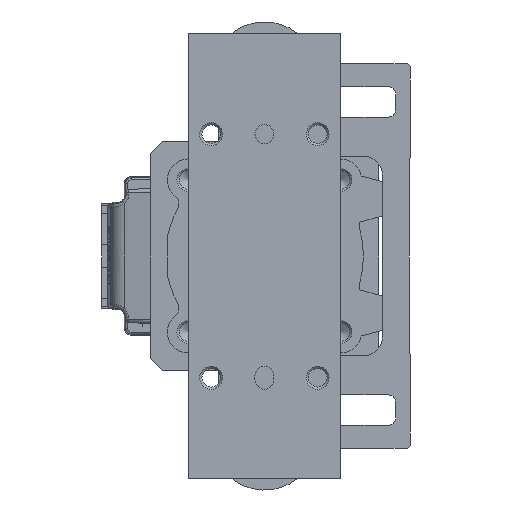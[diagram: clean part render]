
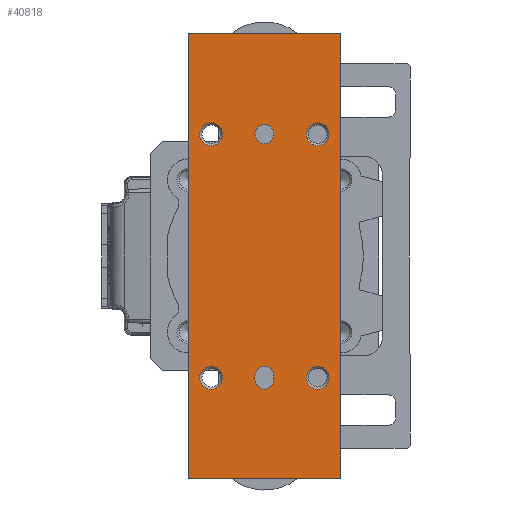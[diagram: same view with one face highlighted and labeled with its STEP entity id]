
A CAD part, left-side view. The second image highlights one B-rep face of the part: STEP entity #40818.
In plain terms, the highlighted planar face has unit normal (-1, 0, 0) as drawn and (0, 0, 1) by its records, which use the part's own axes.
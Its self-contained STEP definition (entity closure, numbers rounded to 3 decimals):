
#22 = CARTESIAN_POINT ( 'NONE',  ( 29., -14., 28.5 ) ) ;
#245 = ORIENTED_EDGE ( 'NONE', *, *, #27410, .T. ) ;
#324 = CARTESIAN_POINT ( 'NONE',  ( -31.5, 0., 28.5 ) ) ;
#923 = ORIENTED_EDGE ( 'NONE', *, *, #15551, .F. ) ;
#1259 = VERTEX_POINT ( 'NONE', #18705 ) ;
#2115 = CARTESIAN_POINT ( 'NONE',  ( -35., -14., 28.5 ) ) ;
#2320 = AXIS2_PLACEMENT_3D ( 'NONE', #9432, #49879, #4593 ) ;
#2904 = EDGE_CURVE ( 'NONE', #12745, #1259, #3685, .T. ) ;
#3685 = LINE ( 'NONE', #20049, #36629 ) ;
#4593 = DIRECTION ( 'NONE',  ( -1., 0., 0. ) ) ;
#4998 = FACE_OUTER_BOUND ( 'NONE', #34990, .T. ) ;
#5188 = DIRECTION ( 'NONE',  ( 0., 0., 1. ) ) ;
#6319 = CARTESIAN_POINT ( 'NONE',  ( -31.5, 2.5, 28.5 ) ) ;
#6348 = VERTEX_POINT ( 'NONE', #23547 ) ;
#6439 = DIRECTION ( 'NONE',  ( 0., -1., 0. ) ) ;
#7138 = AXIS2_PLACEMENT_3D ( 'NONE', #19548, #11215, #23586 ) ;
#8262 = VERTEX_POINT ( 'NONE', #37828 ) ;
#8866 = VERTEX_POINT ( 'NONE', #37533 ) ;
#9189 = AXIS2_PLACEMENT_3D ( 'NONE', #34340, #13720, #30352 ) ;
#9432 = CARTESIAN_POINT ( 'NONE',  ( 32., 14., 28.5 ) ) ;
#10066 = AXIS2_PLACEMENT_3D ( 'NONE', #50226, #5188, #41366 ) ;
#10598 = EDGE_LOOP ( 'NONE', ( #15584 ) ) ;
#10756 = ORIENTED_EDGE ( 'NONE', *, *, #32504, .T. ) ;
#11215 = DIRECTION ( 'NONE',  ( 0., 0., 1. ) ) ;
#11898 = EDGE_LOOP ( 'NONE', ( #923 ) ) ;
#12745 = VERTEX_POINT ( 'NONE', #32488 ) ;
#13720 = DIRECTION ( 'NONE',  ( 0., 0., -1. ) ) ;
#13906 = VERTEX_POINT ( 'NONE', #2115 ) ;
#14389 = EDGE_CURVE ( 'NONE', #8262, #34315, #33420, .T. ) ;
#15551 = EDGE_CURVE ( 'NONE', #8866, #8866, #19486, .T. ) ;
#15584 = ORIENTED_EDGE ( 'NONE', *, *, #49109, .T. ) ;
#15694 = DIRECTION ( 'NONE',  ( 1., 0., 0. ) ) ;
#17351 = DIRECTION ( 'NONE',  ( 0., 0., -1. ) ) ;
#17470 = LINE ( 'NONE', #21760, #25366 ) ;
#17960 = CARTESIAN_POINT ( 'NONE',  ( -32., 14., 28.5 ) ) ;
#17969 = EDGE_CURVE ( 'NONE', #34315, #21298, #50500, .T. ) ;
#18705 = CARTESIAN_POINT ( 'NONE',  ( 58.5, 20., 28.5 ) ) ;
#19175 = EDGE_LOOP ( 'NONE', ( #245 ) ) ;
#19486 = CIRCLE ( 'NONE', #10066, 2.5 ) ;
#19548 = CARTESIAN_POINT ( 'NONE',  ( -32.5, 0., 28.5 ) ) ;
#20041 = VECTOR ( 'NONE', #32628, 1000. ) ;
#20049 = CARTESIAN_POINT ( 'NONE',  ( 58.5, -20., 28.5 ) ) ;
#20289 = ORIENTED_EDGE ( 'NONE', *, *, #31087, .F. ) ;
#20321 = LINE ( 'NONE', #36645, #20041 ) ;
#20353 = EDGE_CURVE ( 'NONE', #49455, #8262, #37070, .T. ) ;
#20565 = DIRECTION ( 'NONE',  ( -1., 0., 0. ) ) ;
#20814 = CIRCLE ( 'NONE', #34514, 3. ) ;
#20832 = FACE_BOUND ( 'NONE', #10598, .T. ) ;
#20875 = VERTEX_POINT ( 'NONE', #52526 ) ;
#20898 = AXIS2_PLACEMENT_3D ( 'NONE', #37691, #17351, #21638 ) ;
#21298 = VERTEX_POINT ( 'NONE', #6319 ) ;
#21377 = PLANE ( 'NONE',  #20898 ) ;
#21638 = DIRECTION ( 'NONE',  ( -1., 0., 0. ) ) ;
#21760 = CARTESIAN_POINT ( 'NONE',  ( -58.5, -20., 28.5 ) ) ;
#22809 = ORIENTED_EDGE ( 'NONE', *, *, #2904, .T. ) ;
#23547 = CARTESIAN_POINT ( 'NONE',  ( -58.5, -20., 28.5 ) ) ;
#23586 = DIRECTION ( 'NONE',  ( 1., 0., 0. ) ) ;
#24063 = LINE ( 'NONE', #48450, #27030 ) ;
#24629 = CARTESIAN_POINT ( 'NONE',  ( -32.5, -2.5, 28.5 ) ) ;
#25251 = VERTEX_POINT ( 'NONE', #41000 ) ;
#25366 = VECTOR ( 'NONE', #6439, 1000. ) ;
#25428 = FACE_BOUND ( 'NONE', #11898, .T. ) ;
#25488 = CIRCLE ( 'NONE', #9189, 3. ) ;
#26473 = ORIENTED_EDGE ( 'NONE', *, *, #45326, .T. ) ;
#27030 = VECTOR ( 'NONE', #40359, 1000. ) ;
#27410 = EDGE_CURVE ( 'NONE', #29247, #29247, #25488, .T. ) ;
#27720 = EDGE_CURVE ( 'NONE', #25251, #25251, #20814, .T. ) ;
#27738 = AXIS2_PLACEMENT_3D ( 'NONE', #45219, #35856, #20565 ) ;
#29153 = FACE_BOUND ( 'NONE', #40813, .T. ) ;
#29247 = VERTEX_POINT ( 'NONE', #22 ) ;
#29440 = CIRCLE ( 'NONE', #27738, 3. ) ;
#30283 = DIRECTION ( 'NONE',  ( 0., 0., -1. ) ) ;
#30352 = DIRECTION ( 'NONE',  ( -1., 0., 0. ) ) ;
#31087 = EDGE_CURVE ( 'NONE', #21298, #49455, #24063, .T. ) ;
#31491 = VECTOR ( 'NONE', #36385, 1000. ) ;
#32488 = CARTESIAN_POINT ( 'NONE',  ( 58.5, -20., 28.5 ) ) ;
#32504 = EDGE_CURVE ( 'NONE', #6348, #12745, #36820, .T. ) ;
#32628 = DIRECTION ( 'NONE',  ( -1., 0., 0. ) ) ;
#33204 = ORIENTED_EDGE ( 'NONE', *, *, #27720, .T. ) ;
#33420 = LINE ( 'NONE', #24629, #31491 ) ;
#33926 = EDGE_LOOP ( 'NONE', ( #36467, #20289, #42989, #52118 ) ) ;
#34315 = VERTEX_POINT ( 'NONE', #46958 ) ;
#34340 = CARTESIAN_POINT ( 'NONE',  ( 32., -14., 28.5 ) ) ;
#34514 = AXIS2_PLACEMENT_3D ( 'NONE', #17960, #30283, #50613 ) ;
#34877 = DIRECTION ( 'NONE',  ( 1., 0., 0. ) ) ;
#34990 = EDGE_LOOP ( 'NONE', ( #22809, #26473, #42328, #10756 ) ) ;
#35721 = CIRCLE ( 'NONE', #2320, 3. ) ;
#35856 = DIRECTION ( 'NONE',  ( 0., 0., -1. ) ) ;
#36385 = DIRECTION ( 'NONE',  ( 1., 0., 0. ) ) ;
#36387 = DIRECTION ( 'NONE',  ( 0., 1., 0. ) ) ;
#36467 = ORIENTED_EDGE ( 'NONE', *, *, #20353, .F. ) ;
#36629 = VECTOR ( 'NONE', #36387, 1000. ) ;
#36645 = CARTESIAN_POINT ( 'NONE',  ( -58.5, 20., 28.5 ) ) ;
#36820 = LINE ( 'NONE', #48396, #40422 ) ;
#37070 = CIRCLE ( 'NONE', #7138, 2.5 ) ;
#37165 = FACE_BOUND ( 'NONE', #19175, .T. ) ;
#37533 = CARTESIAN_POINT ( 'NONE',  ( 34.5, 0., 28.5 ) ) ;
#37691 = CARTESIAN_POINT ( 'NONE',  ( 0., 0., 28.5 ) ) ;
#37828 = CARTESIAN_POINT ( 'NONE',  ( -32.5, -2.5, 28.5 ) ) ;
#40359 = DIRECTION ( 'NONE',  ( -1., 0., 0. ) ) ;
#40422 = VECTOR ( 'NONE', #15694, 1000. ) ;
#40686 = EDGE_CURVE ( 'NONE', #13906, #13906, #29440, .T. ) ;
#40813 = EDGE_LOOP ( 'NONE', ( #50784 ) ) ;
#40818 = ADVANCED_FACE ( 'NONE', ( #20832, #37165, #29153, #45470, #25428, #4998, #50024 ), #21377, .F. ) ;
#41000 = CARTESIAN_POINT ( 'NONE',  ( -35., 14., 28.5 ) ) ;
#41223 = CARTESIAN_POINT ( 'NONE',  ( -32.5, 2.5, 28.5 ) ) ;
#41366 = DIRECTION ( 'NONE',  ( 1., 0., 0. ) ) ;
#41948 = AXIS2_PLACEMENT_3D ( 'NONE', #324, #50664, #34877 ) ;
#42328 = ORIENTED_EDGE ( 'NONE', *, *, #47182, .T. ) ;
#42989 = ORIENTED_EDGE ( 'NONE', *, *, #17969, .F. ) ;
#43881 = VERTEX_POINT ( 'NONE', #48197 ) ;
#45219 = CARTESIAN_POINT ( 'NONE',  ( -32., -14., 28.5 ) ) ;
#45326 = EDGE_CURVE ( 'NONE', #1259, #20875, #20321, .T. ) ;
#45470 = FACE_BOUND ( 'NONE', #51089, .T. ) ;
#46958 = CARTESIAN_POINT ( 'NONE',  ( -31.5, -2.5, 28.5 ) ) ;
#47182 = EDGE_CURVE ( 'NONE', #20875, #6348, #17470, .T. ) ;
#48197 = CARTESIAN_POINT ( 'NONE',  ( 29., 14., 28.5 ) ) ;
#48396 = CARTESIAN_POINT ( 'NONE',  ( -58.5, -20., 28.5 ) ) ;
#48450 = CARTESIAN_POINT ( 'NONE',  ( -32.5, 2.5, 28.5 ) ) ;
#49109 = EDGE_CURVE ( 'NONE', #43881, #43881, #35721, .T. ) ;
#49455 = VERTEX_POINT ( 'NONE', #41223 ) ;
#49879 = DIRECTION ( 'NONE',  ( 0., 0., -1. ) ) ;
#50024 = FACE_BOUND ( 'NONE', #33926, .T. ) ;
#50226 = CARTESIAN_POINT ( 'NONE',  ( 32., 0., 28.5 ) ) ;
#50500 = CIRCLE ( 'NONE', #41948, 2.5 ) ;
#50613 = DIRECTION ( 'NONE',  ( -1., 0., 0. ) ) ;
#50664 = DIRECTION ( 'NONE',  ( 0., 0., 1. ) ) ;
#50784 = ORIENTED_EDGE ( 'NONE', *, *, #40686, .T. ) ;
#51089 = EDGE_LOOP ( 'NONE', ( #33204 ) ) ;
#52118 = ORIENTED_EDGE ( 'NONE', *, *, #14389, .F. ) ;
#52526 = CARTESIAN_POINT ( 'NONE',  ( -58.5, 20., 28.5 ) ) ;
